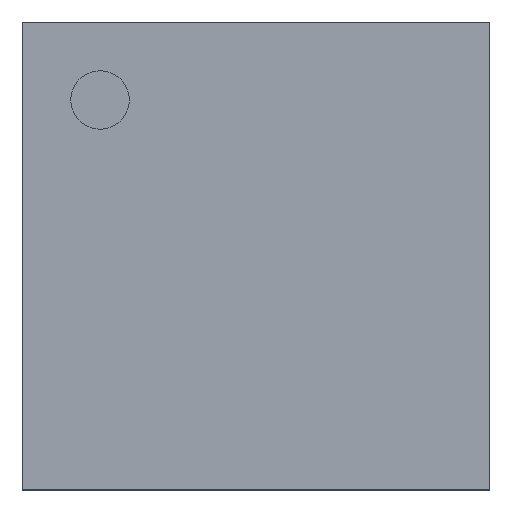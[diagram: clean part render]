
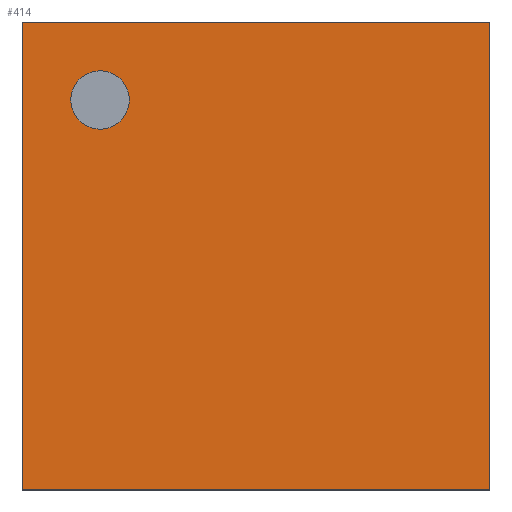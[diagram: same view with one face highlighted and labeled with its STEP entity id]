
A CAD part, top view. The second image highlights one B-rep face of the part: STEP entity #414.
In plain terms, the highlighted planar face has unit normal (0, 0, 1).
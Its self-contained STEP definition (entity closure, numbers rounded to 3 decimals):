
#350 = VERTEX_POINT('',#351);
#351 = CARTESIAN_POINT('',(0.,0.,0.84));
#366 = VERTEX_POINT('',#367);
#367 = CARTESIAN_POINT('',(0.,4.,0.84));
#373 = EDGE_CURVE('',#350,#366,#374,.T.);
#374 = LINE('',#375,#376);
#375 = CARTESIAN_POINT('',(0.,0.,0.84));
#376 = VECTOR('',#377,1.);
#377 = DIRECTION('',(0.,1.,0.));
#396 = EDGE_CURVE('',#350,#397,#399,.T.);
#397 = VERTEX_POINT('',#398);
#398 = CARTESIAN_POINT('',(4.,0.,0.84));
#399 = LINE('',#400,#401);
#400 = CARTESIAN_POINT('',(0.,0.,0.84));
#401 = VECTOR('',#402,1.);
#402 = DIRECTION('',(1.,0.,0.));
#414 = ADVANCED_FACE('',(#415,#433),#444,.T.);
#415 = FACE_BOUND('',#416,.T.);
#416 = EDGE_LOOP('',(#417,#418,#419,#427));
#417 = ORIENTED_EDGE('',*,*,#373,.F.);
#418 = ORIENTED_EDGE('',*,*,#396,.T.);
#419 = ORIENTED_EDGE('',*,*,#420,.T.);
#420 = EDGE_CURVE('',#397,#421,#423,.T.);
#421 = VERTEX_POINT('',#422);
#422 = CARTESIAN_POINT('',(4.,4.,0.84));
#423 = LINE('',#424,#425);
#424 = CARTESIAN_POINT('',(4.,0.,0.84));
#425 = VECTOR('',#426,1.);
#426 = DIRECTION('',(0.,1.,0.));
#427 = ORIENTED_EDGE('',*,*,#428,.F.);
#428 = EDGE_CURVE('',#366,#421,#429,.T.);
#429 = LINE('',#430,#431);
#430 = CARTESIAN_POINT('',(0.,4.,0.84));
#431 = VECTOR('',#432,1.);
#432 = DIRECTION('',(1.,0.,0.));
#433 = FACE_BOUND('',#434,.T.);
#434 = EDGE_LOOP('',(#435));
#435 = ORIENTED_EDGE('',*,*,#436,.F.);
#436 = EDGE_CURVE('',#437,#437,#439,.T.);
#437 = VERTEX_POINT('',#438);
#438 = CARTESIAN_POINT('',(0.917,3.333,0.84));
#439 = CIRCLE('',#440,0.25);
#440 = AXIS2_PLACEMENT_3D('',#441,#442,#443);
#441 = CARTESIAN_POINT('',(0.667,3.333,0.84));
#442 = DIRECTION('',(0.,0.,1.));
#443 = DIRECTION('',(1.,0.,0.));
#444 = PLANE('',#445);
#445 = AXIS2_PLACEMENT_3D('',#446,#447,#448);
#446 = CARTESIAN_POINT('',(0.,0.,0.84));
#447 = DIRECTION('',(0.,0.,1.));
#448 = DIRECTION('',(1.,0.,0.));
